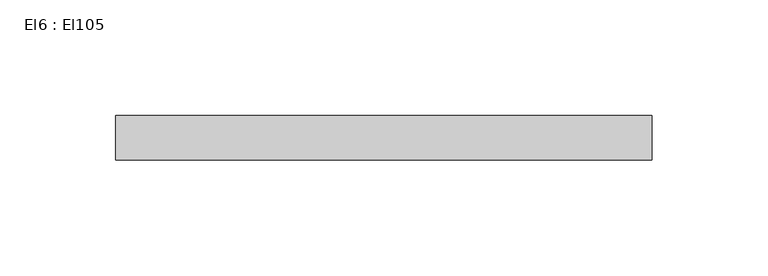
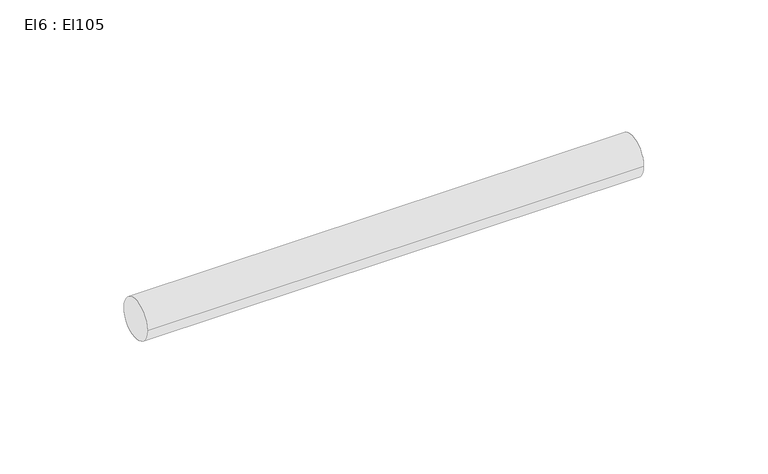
"""IFC4 building model written with IfcOpenShell, lengths in millimetres: cable carrier segment geometry, El6 : El105."""

import ifcopenshell
import ifcopenshell.guid

model = None  # the IFC model being written
_history = None  # IfcOwnerHistory: only IFC2X3 demands one
_inside = {}  # id of a spatial element -> (the spatial element, [elements in it])
_under = {}  # id of a project, library or spatial element -> (it, [spatial elements below it])
_declared = {}  # id of a project -> (the project, [libraries it declares])
_typed = {}  # id of a type object -> (the type object, [elements of that type])
_made_of = {}  # id of a material, layer set ... -> (it, [elements and type objects made of it])


def new_model(schema):
    """Start an empty IFC model of exactly this schema.

    Asked for "IFC4X3", IfcOpenShell would pick the latest addendum, in which some entities
    have other attributes; the version numbers below select the first issue.
    IFC2X3 requires an IfcOwnerHistory on every rooted entity: one is made here for all.
    """
    global model, _history
    if schema == "IFC4X3":
        model = ifcopenshell.file(schema_version=(4, 3, 0, 0))
    else:
        model = ifcopenshell.file(schema=schema)
    _inside.clear()
    _under.clear()
    _declared.clear()
    _typed.clear()
    _made_of.clear()
    _history = None
    if model.schema == "IFC2X3":
        org = make("IfcOrganization", Name="unknown")
        user = make(
            "IfcPersonAndOrganization",
            ThePerson=make("IfcPerson", FamilyName="unknown"),
            TheOrganization=org,
        )
        app = make(
            "IfcApplication",
            ApplicationDeveloper=org,
            Version="unknown",
            ApplicationFullName="unknown",
            ApplicationIdentifier="unknown",
        )
        _history = make(
            "IfcOwnerHistory",
            OwningUser=user,
            OwningApplication=app,
            ChangeAction="ADDED",
            CreationDate=0,
        )
    return model


def make(cls, **values):
    """One entity of the class cls with the attributes given. An attribute that is None is left unset."""
    return model.create_entity(
        cls, **{name: value for name, value in values.items() if value is not None}
    )


def rooted(cls, **values):
    """An entity with a GlobalId (a new one), such as an element, a storey or a relation."""
    return make(cls, GlobalId=ifcopenshell.guid.new(), OwnerHistory=_history, **values)


def si_unit(unit_type, name, prefix=None):
    """IfcSIUnit, for example si_unit("LENGTHUNIT", "METRE", prefix="MILLI")."""
    return make("IfcSIUnit", UnitType=unit_type, Prefix=prefix, Name=name)


def assignment(units):
    """IfcUnitAssignment: the units of a project."""
    return None if units is None else make("IfcUnitAssignment", Units=units)


def point(xyz):
    """IfcCartesianPoint."""
    return None if xyz is None else make("IfcCartesianPoint", Coordinates=xyz)


def direction(xyz):
    """IfcDirection."""
    return None if xyz is None else make("IfcDirection", DirectionRatios=xyz)


def frame(location, z_axis=None, x_axis=None):
    """IfcAxis2Placement3D, a coordinate frame: its origin and axes. An axis left out is left unset."""
    return make(
        "IfcAxis2Placement3D",
        Location=point(location),
        Axis=direction(z_axis),
        RefDirection=direction(x_axis),
    )


def frame_2d(location, x_axis=None):
    """IfcAxis2Placement2D, a coordinate frame in the plane: its origin and x axis."""
    return make(
        "IfcAxis2Placement2D", Location=point(location), RefDirection=direction(x_axis)
    )


def origin():
    """The frame at (0, 0, 0) with its axes left unset."""
    return frame((0.0, 0.0, 0.0))


def place(relative_to, where):
    """IfcLocalPlacement: puts the frame where relative to a parent placement (None: the world)."""
    return make(
        "IfcLocalPlacement", PlacementRelTo=relative_to, RelativePlacement=where
    )


def context(
    kind, dimensions, precision=None, world=None, true_north=None, identifier=None
):
    """IfcGeometricRepresentationContext, for example the 3D "Model" context."""
    return make(
        "IfcGeometricRepresentationContext",
        ContextIdentifier=identifier,
        ContextType=kind,
        CoordinateSpaceDimension=dimensions,
        Precision=precision,
        WorldCoordinateSystem=world,
        TrueNorth=true_north,
    )


def project(units=None, contexts=None):
    """IfcProject with its units and contexts."""
    return rooted(
        "IfcProject",
        Name="project",
        RepresentationContexts=contexts,
        UnitsInContext=assignment(units),
    )


def spatial(cls, under=None, at=None, **own):
    """A site, building, storey or space (cls), placed at a placement, below another one or the project."""
    s = rooted(cls, ObjectPlacement=at, **own)
    if under is not None:
        _under.setdefault(under.id(), (under, []))[1].append(s)
    return s


def circle_curve(where, radius):
    """IfcCircle in the frame where."""
    return make("IfcCircle", Position=where, Radius=radius)


def trimmed(basis, trim1, trim2, sense, master):
    """IfcTrimmedCurve: the piece of a basis curve between two trims."""
    return make(
        "IfcTrimmedCurve",
        BasisCurve=basis,
        Trim1=trim1,
        Trim2=trim2,
        SenseAgreement=sense,
        MasterRepresentation=master,
    )


def segment(curve, same_sense, transition):
    """IfcCompositeCurveSegment."""
    return make(
        "IfcCompositeCurveSegment",
        Transition=transition,
        SameSense=same_sense,
        ParentCurve=curve,
    )


def composite_curve(segments, self_intersect=None):
    """IfcCompositeCurve: segments joined end to end."""
    return make("IfcCompositeCurve", Segments=segments, SelfIntersect=self_intersect)


def outline(outer, holes=None, kind="AREA"):
    """IfcArbitraryClosedProfileDef: a profile drawn as a closed curve; with holes, ...WithVoids."""
    if holes is None:
        return make("IfcArbitraryClosedProfileDef", ProfileType=kind, OuterCurve=outer)
    return make(
        "IfcArbitraryProfileDefWithVoids",
        ProfileType=kind,
        OuterCurve=outer,
        InnerCurves=holes,
    )


def extrude(swept, where, along, depth):
    """IfcExtrudedAreaSolid: the profile swept, set in the frame where, extruded along a direction by depth."""
    return make(
        "IfcExtrudedAreaSolid",
        SweptArea=swept,
        Position=where,
        ExtrudedDirection=direction(along),
        Depth=depth,
    )


def shape(context_of_items, identifier, shape_type, items):
    """IfcShapeRepresentation: the items that make up one representation, for example the "Body"."""
    return make(
        "IfcShapeRepresentation",
        ContextOfItems=context_of_items,
        RepresentationIdentifier=identifier,
        RepresentationType=shape_type,
        Items=items,
    )


def source(mapping_origin, context_of_items, identifier, shape_type, items):
    """IfcRepresentationMap: a shape defined once, which mapped items show again and again."""
    return make(
        "IfcRepresentationMap",
        MappingOrigin=mapping_origin,
        MappedRepresentation=shape(context_of_items, identifier, shape_type, items),
    )


def transform(
    local_origin,
    x_axis=None,
    y_axis=None,
    z_axis=None,
    scale=None,
    scale2=None,
    scale3=None,
    uniform=True,
):
    """IfcCartesianTransformationOperator3D, or its non-uniform kind. x_axis, y_axis, z_axis: its Axis1, 2, 3."""
    if uniform:
        return make(
            "IfcCartesianTransformationOperator3D",
            Axis1=direction(x_axis),
            Axis2=direction(y_axis),
            LocalOrigin=point(local_origin),
            Scale=scale,
            Axis3=direction(z_axis),
        )
    return make(
        "IfcCartesianTransformationOperator3DnonUniform",
        Axis1=direction(x_axis),
        Axis2=direction(y_axis),
        LocalOrigin=point(local_origin),
        Scale=scale,
        Axis3=direction(z_axis),
        Scale2=scale2,
        Scale3=scale3,
    )


def mapped(mapping_source, mapping_target):
    """IfcMappedItem: shows the shape of a source again, moved by a transform."""
    return make(
        "IfcMappedItem", MappingSource=mapping_source, MappingTarget=mapping_target
    )


def made_of(thing, what):
    """Note that an element or type object is made of a material, layer set ...; save() writes the relation."""
    if what is not None:
        _made_of.setdefault(what.id(), (what, []))[1].append(thing)
    return thing


def element(
    cls,
    number,
    at=None,
    inside=None,
    cuts=None,
    type_object=None,
    material=None,
    context=None,
    identifier="Body",
    shape_type=None,
    held_by="IfcProductDefinitionShape",
    body=None,
    shapes=None,
    **own,
):
    """One element of the class cls, such as IfcWall. Its Tag is "e" and its number.

    at: its placement. inside: the storey or other place that contains it. cuts: it is an
    opening in that element (IfcRelVoidsElement). A single representation is given by context,
    identifier, shape_type and body (its items); several are given by shapes. held_by: the class
    of the entity that holds the representations. save() writes the other relations.
    """
    e = rooted(cls, Tag="e%d" % number, ObjectPlacement=at, **own)
    if body is not None:
        shapes = [shape(context, identifier, shape_type, body)]
    if shapes is not None:
        e.Representation = make(held_by, Representations=shapes)
    if inside is not None:
        _inside.setdefault(inside.id(), (inside, []))[1].append(e)
    if cuts is not None:
        rooted(
            "IfcRelVoidsElement", RelatingBuildingElement=cuts, RelatedOpeningElement=e
        )
    if type_object is not None:
        _typed.setdefault(type_object.id(), (type_object, []))[1].append(e)
    return made_of(e, material)


def aggregate(whole, parts):
    """IfcRelAggregates: a whole, such as a stair, and the parts it consists of."""
    return rooted("IfcRelAggregates", RelatingObject=whole, RelatedObjects=parts)


def save(model, path):
    """Write the relations noted so far, then the file.

    IfcRelAggregates (storeys below a building ...), IfcRelContainedInSpatialStructure (elements
    in a storey), IfcRelDefinesByType, IfcRelAssociatesMaterial and IfcRelDeclares: one each for
    every whole, place, type object, material and project.
    """
    for whole, parts in _under.values():
        aggregate(whole, parts)
    for where, things in _inside.values():
        rooted(
            "IfcRelContainedInSpatialStructure",
            RelatedElements=things,
            RelatingStructure=where,
        )
    for kind, things in _typed.values():
        rooted("IfcRelDefinesByType", RelatedObjects=things, RelatingType=kind)
    for what, things in _made_of.values():
        rooted("IfcRelAssociatesMaterial", RelatedObjects=things, RelatingMaterial=what)
    for by, libraries in _declared.values():
        rooted("IfcRelDeclares", RelatingContext=by, RelatedDefinitions=libraries)
    model.write(path)


def el6_el105_977d746f(model_context):
    return source(origin(), model_context, "Body", "SweptSolid", [
        extrude(outline(composite_curve([segment(trimmed(circle_curve(frame_2d((6766.0121745, 2700.0)), 9.5), [point((6756.5121745, 2700.0))], [point((6775.5121745, 2700.0))], False, "CARTESIAN"), True, "CONTINUOUS"), segment(trimmed(circle_curve(frame_2d((6766.0121745, 2700.0)), 9.5), [point((6775.5121745, 2700.0))], [point((6756.5121745, 2700.0))], False, "CARTESIAN"), True, "CONTINUOUS")], self_intersect=False)), frame((26462.5336511, 0.0, 0.0), z_axis=(1.0, 0.0, 0.0), x_axis=(0.0, 1.0, 0.0)), (0.0, 0.0, 1.0), 231.082),
    ])


if __name__ == "__main__":
    model = new_model("IFC4")
    model_context = context("Model", 3, world=origin())
    ifc_project = project(units=[si_unit("LENGTHUNIT", "METRE", prefix="MILLI")], contexts=[model_context])
    site = spatial("IfcSite", under=ifc_project)
    building = spatial("IfcBuilding", under=site)
    placement = place(None, origin())
    el6_el105_shape = el6_el105_977d746f(model_context)
    element("IfcCableCarrierSegment", 1, ObjectType="El6 : El105", at=placement, inside=building, context=model_context, shape_type="MappedRepresentation", body=[
        mapped(el6_el105_shape, transform((0.0, 0.0, 0.0), x_axis=(1.0, 0.0, 0.0), y_axis=(0.0, 1.0, 0.0), z_axis=(0.0, 0.0, 1.0))),
    ])
    save(model, "model.ifc")
